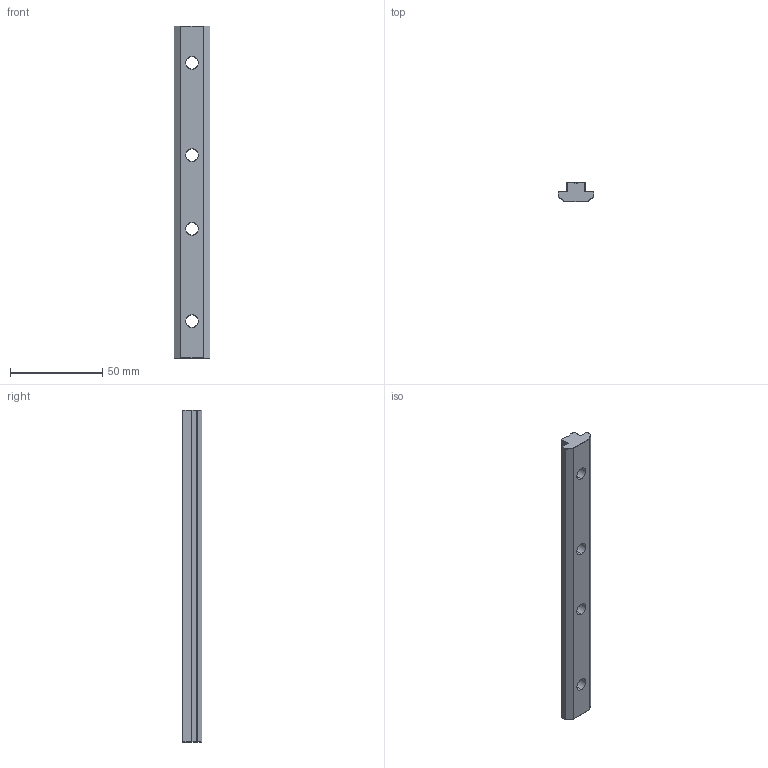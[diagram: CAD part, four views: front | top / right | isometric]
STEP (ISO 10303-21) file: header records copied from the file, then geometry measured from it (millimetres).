
FILE_DESCRIPTION (( 'STEP AP203' ), '1' );
FILE_NAME ('CP-JC45X45.STEP', '2018-03-15T12:59:39', ( '' ), ( '' ), 'SwSTEP 2.0', 'SolidWorks 2013', '' );
FILE_SCHEMA (( 'CONFIG_CONTROL_DESIGN' ));
Length unit declared in the file: millimetre
Products named in the file (1): CP-JC45X45
Bounding box: 19.5 x 10.5 x 180 mm (x, y, z)
Volume: 25004.2 mm3; surface area: 11015.7 mm2
Topology: 1 solids, 1 shells, 85 faces, 205 edges, 104 vertices
Faces by surface type: cylinder 44, plane 23, sphere 18
Entity records: 2390 total; most frequent: CARTESIAN_POINT 459, DIRECTION 407, ORIENTED_EDGE 382, EDGE_CURVE 191, AXIS2_PLACEMENT_3D 156, VERTEX_POINT 104, LINE 95, VECTOR 95
